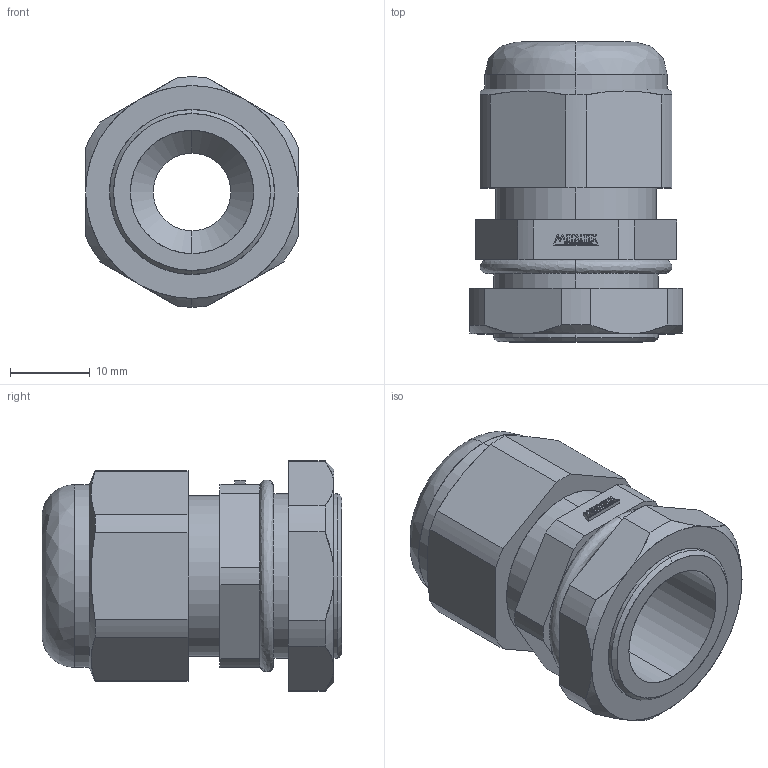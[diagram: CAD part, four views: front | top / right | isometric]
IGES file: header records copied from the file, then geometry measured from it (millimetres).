
Start section: SolidWorks IGES file using analytic representation for surfaces
Global section: file name: D:\X - Arquivos\PROEX\Empresas\P11 - METALTEX\01 - Produtos\IGES\Terceira remessa\Etapa 2\CH-B1_2.IGS; native system: SolidWorks 2012; preprocessor: SolidWorks 2012; author: Usuario; date: 180207.125106; units: millimetre
Bounding box: 26.6 x 37.5 x 28.8 mm (x, y, z)
Surface area: 5945.2 mm2 (no closed solid volume)
Topology: 0 solids, 0 shells, 174 faces, 1306 edges, 1306 vertices
Faces by surface type: bspline 125, revolution 49
